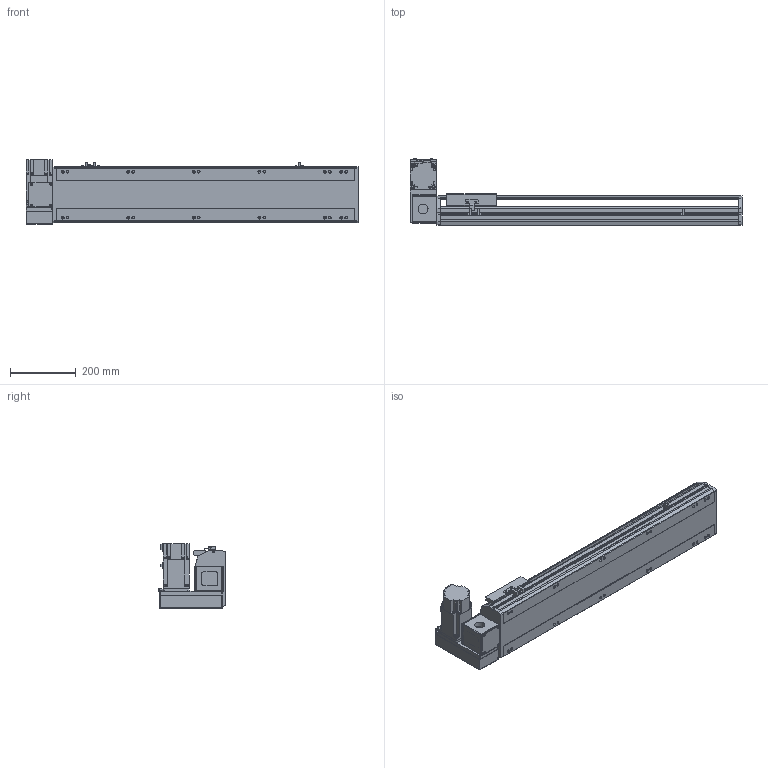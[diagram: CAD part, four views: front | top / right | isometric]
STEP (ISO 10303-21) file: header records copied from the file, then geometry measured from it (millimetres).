
FILE_DESCRIPTION( ( 'STEP AP214' ), '1' );
FILE_NAME( 'x:/temp/worker_4/temp/exporttempdir_2248_388_tDurL/format_0/PBS170-P40-S650-LU-T75-C1-N(0).stp', '2022-06-07T08:14:32', ( 'License CC BY-ND 4.0' ), ( 'CADENAS' ), ' ', 'PARTsolutions', ' ' );
FILE_SCHEMA( ( 'AUTOMOTIVE_DESIGN { 1 0 10303 214 1 1 1 1 }' ) );
Length unit declared in the file: millimetre
Products named in the file (7): PBS170-P40-S650-LU-T75-C1-N(0); _PBS170-S650()_body; _PBS170T-LU_motors; _T75-p1; _PBS170_sliser; _PBS170_plant; _PBS170_sensor
Assembly tree (8 placements, depth 2):
  PBS170-P40-S650-LU-T75-C1-N(0)
    _PBS170-S650()_body
    _PBS170T-LU_motors
    _T75-p1
    _PBS170_sliser
    _PBS170_plant
    _PBS170_sensor  x3
Bounding box: 1013 x 206 x 197.3 mm (x, y, z)
Volume: 8493827.7 mm3; surface area: 1140360.9 mm2
Topology: 8 solids, 8 shells, 1050 faces, 2795 edges, 1822 vertices
Faces by surface type: plane 675, cylinder 323, cone 42, sphere 8, torus 2
Full cylindrical faces by diameter (mm): 3.242 x4, 4 x2, 4.4 x4, 4.5 x6, 4.917 x4, 6 x9, 6.647 x20, 7 x2, 7.5 x4, 8 x8, 8.5 x12, 10 x4, 10.5 x12, 11 x2, 30 x2, 40 x1, 70 x1
Entity records: 38456 total; most frequent: CARTESIAN_POINT 5885, DIRECTION 5160, ORIENTED_EDGE 4908, EDGE_CURVE 2454, AXIS2_PLACEMENT_3D 1777, VERTEX_POINT 1682, LINE 1606, VECTOR 1606
